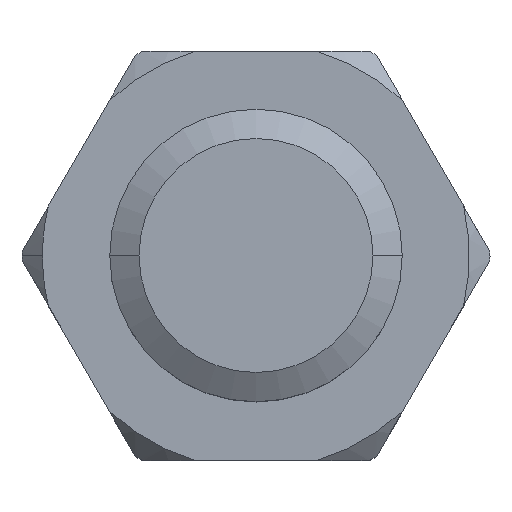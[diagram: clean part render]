
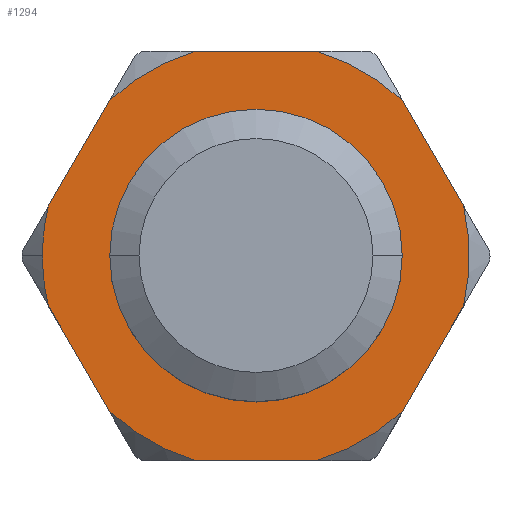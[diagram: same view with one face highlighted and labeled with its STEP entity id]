
A CAD part, top view. The second image highlights one B-rep face of the part: STEP entity #1294.
In plain terms, the highlighted planar face has unit normal (0, 0, 1).
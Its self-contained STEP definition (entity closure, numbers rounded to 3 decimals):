
#6 = AXIS2_PLACEMENT_3D ( 'NONE', #559, #61, #1467 ) ;
#12 = CARTESIAN_POINT ( 'NONE',  ( -3.549, 0.853, -7.42 ) ) ;
#27 = EDGE_CURVE ( 'NONE', #694, #99, #385, .T. ) ;
#34 = CIRCLE ( 'NONE', #880, 3.65 ) ;
#35 = VECTOR ( 'NONE', #1325, 1000. ) ;
#61 = DIRECTION ( 'NONE',  ( 0., 0., 1. ) ) ;
#99 = VERTEX_POINT ( 'NONE', #1303 ) ;
#110 = CIRCLE ( 'NONE', #1189, 3.65 ) ;
#124 = CARTESIAN_POINT ( 'NONE',  ( 2., 0., -7.42 ) ) ;
#150 = FACE_BOUND ( 'NONE', #822, .T. ) ;
#168 = EDGE_CURVE ( 'NONE', #924, #473, #578, .T. ) ;
#181 = DIRECTION ( 'NONE',  ( -1., 0., 0. ) ) ;
#212 = CARTESIAN_POINT ( 'NONE',  ( 0., 0., -7.42 ) ) ;
#225 = CARTESIAN_POINT ( 'NONE',  ( 2.063, 3.427, -7.42 ) ) ;
#229 = ORIENTED_EDGE ( 'NONE', *, *, #967, .T. ) ;
#240 = VERTEX_POINT ( 'NONE', #804 ) ;
#245 = EDGE_CURVE ( 'NONE', #1344, #1261, #534, .T. ) ;
#248 = DIRECTION ( 'NONE',  ( 1., 0., 0. ) ) ;
#261 = VERTEX_POINT ( 'NONE', #781 ) ;
#266 = VECTOR ( 'NONE', #814, 1000. ) ;
#268 = CARTESIAN_POINT ( 'NONE',  ( 0., 0., -7.42 ) ) ;
#274 = CARTESIAN_POINT ( 'NONE',  ( 0., 0., -7.42 ) ) ;
#277 = CARTESIAN_POINT ( 'NONE',  ( 3.549, -0.853, -7.42 ) ) ;
#290 = CIRCLE ( 'NONE', #1416, 3.65 ) ;
#307 = DIRECTION ( 'NONE',  ( 1., 0., 0. ) ) ;
#317 = CARTESIAN_POINT ( 'NONE',  ( 1.936, -3.5, -7.42 ) ) ;
#346 = ORIENTED_EDGE ( 'NONE', *, *, #168, .F. ) ;
#350 = PLANE ( 'NONE',  #1513 ) ;
#364 = VERTEX_POINT ( 'NONE', #393 ) ;
#374 = EDGE_CURVE ( 'NONE', #862, #1313, #1319, .T. ) ;
#381 = EDGE_CURVE ( 'NONE', #261, #1313, #639, .T. ) ;
#385 = LINE ( 'NONE', #1516, #959 ) ;
#388 = ORIENTED_EDGE ( 'NONE', *, *, #374, .F. ) ;
#393 = CARTESIAN_POINT ( 'NONE',  ( -3.65, 0., -7.42 ) ) ;
#403 = VERTEX_POINT ( 'NONE', #1082 ) ;
#421 = ORIENTED_EDGE ( 'NONE', *, *, #1326, .F. ) ;
#430 = DIRECTION ( 'NONE',  ( 0., 0., 1. ) ) ;
#452 = DIRECTION ( 'NONE',  ( 0., 0., 1. ) ) ;
#458 = EDGE_CURVE ( 'NONE', #1147, #481, #1166, .T. ) ;
#473 = VERTEX_POINT ( 'NONE', #1465 ) ;
#474 = ORIENTED_EDGE ( 'NONE', *, *, #737, .F. ) ;
#478 = DIRECTION ( 'NONE',  ( 0., 0., 1. ) ) ;
#481 = VERTEX_POINT ( 'NONE', #721 ) ;
#491 = ORIENTED_EDGE ( 'NONE', *, *, #753, .F. ) ;
#496 = AXIS2_PLACEMENT_3D ( 'NONE', #525, #632, #740 ) ;
#505 = DIRECTION ( 'NONE',  ( 0., 0., 1. ) ) ;
#509 = EDGE_CURVE ( 'NONE', #1344, #240, #1131, .T. ) ;
#516 = DIRECTION ( 'NONE',  ( 0., 0., 1. ) ) ;
#525 = CARTESIAN_POINT ( 'NONE',  ( 0., 0., -7.42 ) ) ;
#534 = CIRCLE ( 'NONE', #1485, 3.65 ) ;
#559 = CARTESIAN_POINT ( 'NONE',  ( 0., 0., -7.42 ) ) ;
#578 = LINE ( 'NONE', #1528, #266 ) ;
#582 = ORIENTED_EDGE ( 'NONE', *, *, #27, .F. ) ;
#630 = CARTESIAN_POINT ( 'NONE',  ( 0., 0., -7.42 ) ) ;
#632 = DIRECTION ( 'NONE',  ( 0., 0., 1. ) ) ;
#639 = CIRCLE ( 'NONE', #828, 3.65 ) ;
#642 = CARTESIAN_POINT ( 'NONE',  ( 1.036, -3.5, -7.42 ) ) ;
#648 = CARTESIAN_POINT ( 'NONE',  ( -1.936, 3.5, -7.42 ) ) ;
#690 = ORIENTED_EDGE ( 'NONE', *, *, #381, .T. ) ;
#691 = DIRECTION ( 'NONE',  ( 1., 0., 0. ) ) ;
#693 = CARTESIAN_POINT ( 'NONE',  ( 1.036, 3.5, -7.42 ) ) ;
#694 = VERTEX_POINT ( 'NONE', #1241 ) ;
#706 = LINE ( 'NONE', #225, #1322 ) ;
#719 = DIRECTION ( 'NONE',  ( 1., 0., 0. ) ) ;
#721 = CARTESIAN_POINT ( 'NONE',  ( 3.549, 0.853, -7.42 ) ) ;
#723 = ORIENTED_EDGE ( 'NONE', *, *, #1227, .F. ) ;
#737 = EDGE_CURVE ( 'NONE', #1147, #1261, #1503, .T. ) ;
#740 = DIRECTION ( 'NONE',  ( 1., 0., 0. ) ) ;
#753 = EDGE_CURVE ( 'NONE', #403, #999, #844, .T. ) ;
#778 = CARTESIAN_POINT ( 'NONE',  ( 3.999, -0.073, -7.42 ) ) ;
#781 = CARTESIAN_POINT ( 'NONE',  ( 2.513, 2.647, -7.42 ) ) ;
#804 = CARTESIAN_POINT ( 'NONE',  ( -1.036, -3.5, -7.42 ) ) ;
#811 = ORIENTED_EDGE ( 'NONE', *, *, #509, .F. ) ;
#814 = DIRECTION ( 'NONE',  ( 0.5, 0.866, 0. ) ) ;
#822 = EDGE_LOOP ( 'NONE', ( #491, #723 ) ) ;
#825 = VECTOR ( 'NONE', #181, 1000. ) ;
#828 = AXIS2_PLACEMENT_3D ( 'NONE', #630, #516, #1345 ) ;
#844 = CIRCLE ( 'NONE', #6, 2. ) ;
#862 = VERTEX_POINT ( 'NONE', #1392 ) ;
#880 = AXIS2_PLACEMENT_3D ( 'NONE', #268, #478, #248 ) ;
#881 = DIRECTION ( 'NONE',  ( 1., 0., 0. ) ) ;
#892 = CIRCLE ( 'NONE', #1037, 2. ) ;
#924 = VERTEX_POINT ( 'NONE', #12 ) ;
#928 = CARTESIAN_POINT ( 'NONE',  ( 0., 0., -7.42 ) ) ;
#950 = CARTESIAN_POINT ( 'NONE',  ( 0., 0., -7.42 ) ) ;
#959 = VECTOR ( 'NONE', #1508, 1000. ) ;
#967 = EDGE_CURVE ( 'NONE', #694, #240, #34, .T. ) ;
#988 = EDGE_CURVE ( 'NONE', #862, #473, #110, .T. ) ;
#999 = VERTEX_POINT ( 'NONE', #124 ) ;
#1029 = DIRECTION ( 'NONE',  ( 1., 0., 0. ) ) ;
#1035 = DIRECTION ( 'NONE',  ( 0., 0., 1. ) ) ;
#1037 = AXIS2_PLACEMENT_3D ( 'NONE', #212, #1367, #1276 ) ;
#1052 = CARTESIAN_POINT ( 'NONE',  ( 2.513, -2.647, -7.42 ) ) ;
#1076 = EDGE_LOOP ( 'NONE', ( #421, #690, #388, #1270, #346, #1510, #1196, #582, #229, #811, #1083, #474, #1355 ) ) ;
#1082 = CARTESIAN_POINT ( 'NONE',  ( -2., 0., -7.42 ) ) ;
#1083 = ORIENTED_EDGE ( 'NONE', *, *, #245, .T. ) ;
#1112 = EDGE_CURVE ( 'NONE', #364, #99, #1445, .T. ) ;
#1131 = LINE ( 'NONE', #317, #825 ) ;
#1133 = CARTESIAN_POINT ( 'NONE',  ( 0., 0., -7.42 ) ) ;
#1147 = VERTEX_POINT ( 'NONE', #277 ) ;
#1150 = VECTOR ( 'NONE', #1480, 1000. ) ;
#1166 = CIRCLE ( 'NONE', #1215, 3.65 ) ;
#1189 = AXIS2_PLACEMENT_3D ( 'NONE', #950, #1288, #719 ) ;
#1196 = ORIENTED_EDGE ( 'NONE', *, *, #1112, .T. ) ;
#1215 = AXIS2_PLACEMENT_3D ( 'NONE', #274, #505, #881 ) ;
#1227 = EDGE_CURVE ( 'NONE', #999, #403, #892, .T. ) ;
#1241 = CARTESIAN_POINT ( 'NONE',  ( -2.513, -2.647, -7.42 ) ) ;
#1261 = VERTEX_POINT ( 'NONE', #1052 ) ;
#1270 = ORIENTED_EDGE ( 'NONE', *, *, #988, .T. ) ;
#1276 = DIRECTION ( 'NONE',  ( 1., 0., 0. ) ) ;
#1285 = DIRECTION ( 'NONE',  ( 0.5, -0.866, 0. ) ) ;
#1288 = DIRECTION ( 'NONE',  ( 0., 0., 1. ) ) ;
#1294 = ADVANCED_FACE ( 'NONE', ( #150, #1438 ), #350, .T. ) ;
#1303 = CARTESIAN_POINT ( 'NONE',  ( -3.549, -0.853, -7.42 ) ) ;
#1313 = VERTEX_POINT ( 'NONE', #693 ) ;
#1319 = LINE ( 'NONE', #648, #35 ) ;
#1322 = VECTOR ( 'NONE', #1285, 1000. ) ;
#1325 = DIRECTION ( 'NONE',  ( 1., 0., 0. ) ) ;
#1326 = EDGE_CURVE ( 'NONE', #261, #481, #706, .T. ) ;
#1344 = VERTEX_POINT ( 'NONE', #642 ) ;
#1345 = DIRECTION ( 'NONE',  ( 1., 0., 0. ) ) ;
#1355 = ORIENTED_EDGE ( 'NONE', *, *, #458, .T. ) ;
#1367 = DIRECTION ( 'NONE',  ( 0., 0., 1. ) ) ;
#1381 = CARTESIAN_POINT ( 'NONE',  ( 0., 0., -7.42 ) ) ;
#1392 = CARTESIAN_POINT ( 'NONE',  ( -1.036, 3.5, -7.42 ) ) ;
#1416 = AXIS2_PLACEMENT_3D ( 'NONE', #1133, #430, #307 ) ;
#1438 = FACE_OUTER_BOUND ( 'NONE', #1076, .T. ) ;
#1445 = CIRCLE ( 'NONE', #496, 3.65 ) ;
#1465 = CARTESIAN_POINT ( 'NONE',  ( -2.513, 2.647, -7.42 ) ) ;
#1467 = DIRECTION ( 'NONE',  ( 1., 0., 0. ) ) ;
#1480 = DIRECTION ( 'NONE',  ( -0.5, -0.866, 0. ) ) ;
#1485 = AXIS2_PLACEMENT_3D ( 'NONE', #1381, #1035, #1029 ) ;
#1490 = EDGE_CURVE ( 'NONE', #924, #364, #290, .T. ) ;
#1503 = LINE ( 'NONE', #778, #1150 ) ;
#1508 = DIRECTION ( 'NONE',  ( -0.5, 0.866, 0. ) ) ;
#1510 = ORIENTED_EDGE ( 'NONE', *, *, #1490, .T. ) ;
#1513 = AXIS2_PLACEMENT_3D ( 'NONE', #928, #452, #691 ) ;
#1516 = CARTESIAN_POINT ( 'NONE',  ( -2.063, -3.427, -7.42 ) ) ;
#1528 = CARTESIAN_POINT ( 'NONE',  ( -3.999, 0.073, -7.42 ) ) ;
